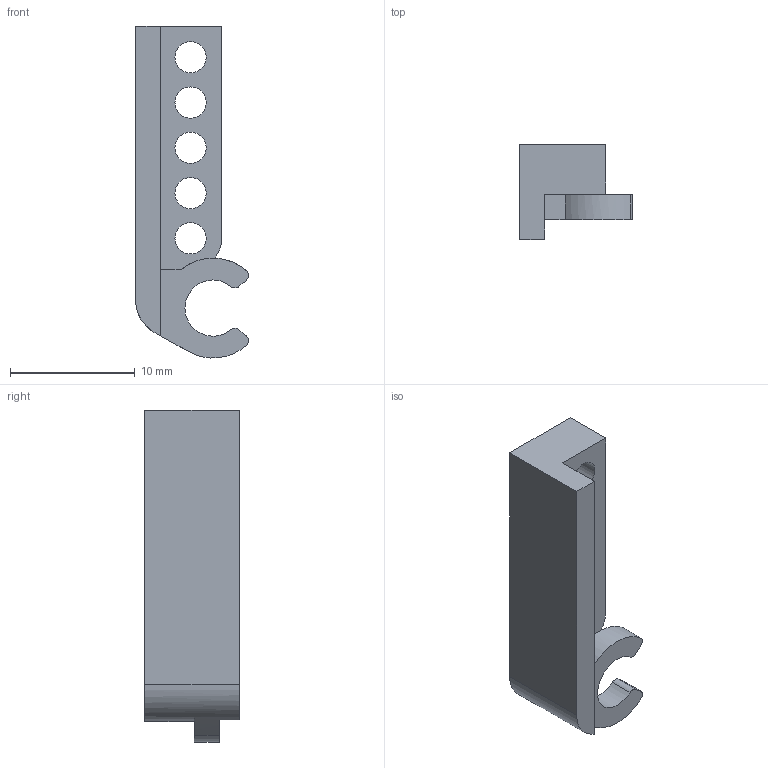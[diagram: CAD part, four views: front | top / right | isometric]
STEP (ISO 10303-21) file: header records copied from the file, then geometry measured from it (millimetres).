
FILE_DESCRIPTION(/* description */ (''),/* implementation_level */ '2;1');
FILE_NAME(/* name */ 'C:/Users/Ben/Desktop/Duet Optical mod v11.step',/* time_stamp */ '2019-07-27T18:10:58+03:00',/* author */ (''),/* organization */ (''),/* preprocessor_version */ 'ST-DEVELOPER v18',/* originating_system */ 'Autodesk Translation Framework v8.2.0.1029',/* authorisation */ '');
FILE_SCHEMA (('AUTOMOTIVE_DESIGN { 1 0 10303 214 3 1 1 }'));
Length unit declared in the file: millimetre
Products named in the file (1): Duet Optical mod
Bounding box: 9.03 x 7.6 x 26.58 mm (x, y, z)
Volume: 710.3 mm3; surface area: 932 mm2
Topology: 1 solids, 1 shells, 28 faces, 77 edges, 50 vertices
Faces by surface type: cylinder 16, plane 12
Full cylindrical faces by diameter (mm): 2.5 x5
Entity records: 960 total; most frequent: DIRECTION 171, CARTESIAN_POINT 156, ORIENTED_EDGE 154, EDGE_CURVE 77, AXIS2_PLACEMENT_3D 65, VERTEX_POINT 50, LINE 41, VECTOR 41
